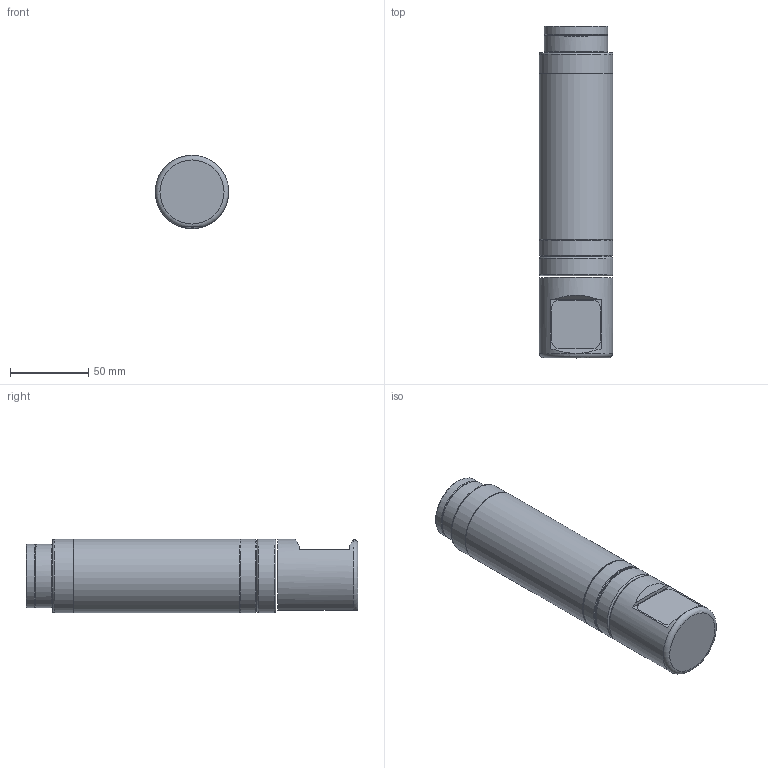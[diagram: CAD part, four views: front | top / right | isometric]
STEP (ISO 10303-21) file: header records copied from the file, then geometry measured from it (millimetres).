
FILE_DESCRIPTION (( 'STEP AP214' ), '1' );
FILE_NAME ('PA Altimeter 200-500kHz 4000m ALRA.STEP', '2014-12-10T14:24:14', ( 'Allan' ), ( 'Microsoft' ), 'SwSTEP 2.0', 'SolidWorks 2013', '' );
FILE_SCHEMA (( 'AUTOMOTIVE_DESIGN' ));
Length unit declared in the file: inch
Products named in the file (1): PA Altimeter 200-500kHz 4000m ALRA
Bounding box: 47 x 212.58 x 47 mm (x, y, z)
Surface area: 41606.1 mm2 (no closed solid volume)
Topology: 0 solids, 16 shells, 86 faces, 276 edges, 192 vertices
Faces by surface type: cylinder 35, plane 19, cone 16, torus 9, sphere 7
Full cylindrical faces by diameter (mm): 1.5 x6, 3.43 x8, 7 x4, 11.69 x1, 21.94 x1, 40.7 x2, 44.895 x1, 47 x4
Entity records: 3951 total; most frequent: CARTESIAN_POINT 737, DIRECTION 467, ORIENTED_EDGE 284, AXIS2_PLACEMENT_3D 219, EDGE_CURVE 186, EDGE_LOOP 172, VERTEX_POINT 164, CIRCLE 132
